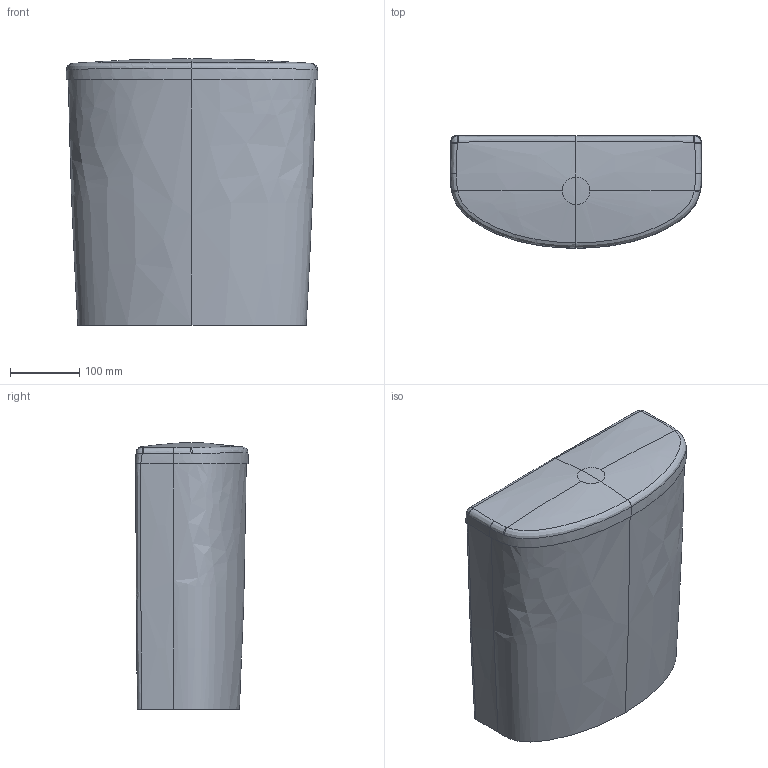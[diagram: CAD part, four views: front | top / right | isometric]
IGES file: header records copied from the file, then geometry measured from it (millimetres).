
Global section: file name: 500268; native system: Autodesk Inventor 2018; preprocessor: unknown; author: seihe2; date: 20200527.082501; units: millimetre
Bounding box: 364 x 163 x 385.35 mm (x, y, z)
Volume: 17880957.8 mm3; surface area: 432187.6 mm2
Topology: 1 solids, 1 shells, 46 faces, 109 edges, 63 vertices
Faces by surface type: bspline 46
